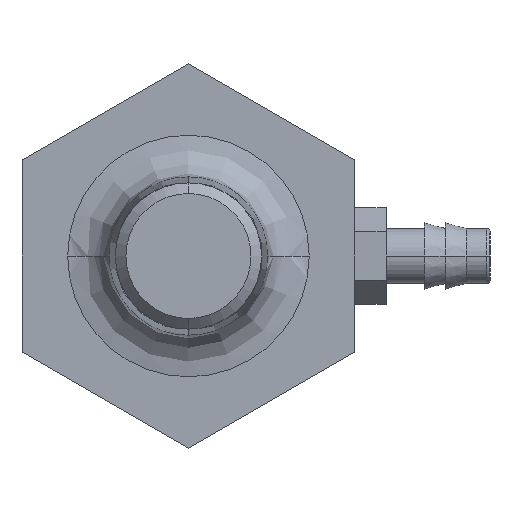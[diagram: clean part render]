
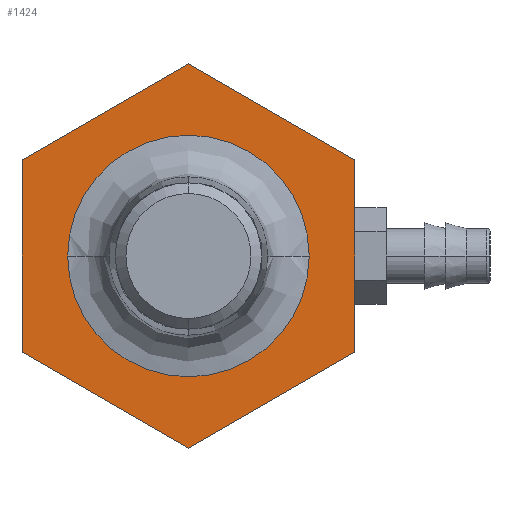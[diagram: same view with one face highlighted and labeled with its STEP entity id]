
A CAD part, left-side view. The second image highlights one B-rep face of the part: STEP entity #1424.
In plain terms, the highlighted planar face has unit normal (-1, 0, 0).
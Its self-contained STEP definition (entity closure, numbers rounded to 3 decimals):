
#1165=CARTESIAN_POINT('',(-2.75,0.363,0.));
#1166=VERTEX_POINT('',#1165);
#1176=CARTESIAN_POINT('',(-2.75,-0.363,0.));
#1177=VERTEX_POINT('',#1176);
#1178=CARTESIAN_POINT('',(-2.75,0.0,0.0));
#1179=DIRECTION('',(-1.0,0.0,0.0));
#1180=DIRECTION('',(0.0,0.0,1.0));
#1181=AXIS2_PLACEMENT_3D('',#1178,#1179,#1180);
#1182=CIRCLE('',#1181,0.363);
#1183=EDGE_CURVE('',#1166,#1177,#1182,.T.);
#1332=CARTESIAN_POINT('',(-2.75,0.0,0.363));
#1333=VERTEX_POINT('',#1332);
#1334=CARTESIAN_POINT('',(-2.75,0.0,0.0));
#1335=DIRECTION('',(-1.0,0.0,0.0));
#1336=DIRECTION('',(0.0,0.0,1.0));
#1337=AXIS2_PLACEMENT_3D('',#1334,#1335,#1336);
#1338=CIRCLE('',#1337,0.363);
#1339=EDGE_CURVE('',#1177,#1333,#1338,.T.);
#1341=CARTESIAN_POINT('',(-2.75,0.0,0.0));
#1342=DIRECTION('',(-1.0,0.0,0.0));
#1343=DIRECTION('',(0.0,0.0,1.0));
#1344=AXIS2_PLACEMENT_3D('',#1341,#1342,#1343);
#1345=CIRCLE('',#1344,0.363);
#1346=EDGE_CURVE('',#1333,#1166,#1345,.T.);
#1364=CARTESIAN_POINT('',(-2.75,0.0,0.));
#1365=DIRECTION('',(-1.0,0.0,0.0));
#1366=DIRECTION('',(0.0,0.0,1.0));
#1367=AXIS2_PLACEMENT_3D('',#1364,#1365,#1366);
#1368=PLANE('',#1367);
#1369=CARTESIAN_POINT('',(-2.75,0.5,0.289));
#1370=VERTEX_POINT('',#1369);
#1371=CARTESIAN_POINT('',(-2.75,0.0,0.577));
#1372=VERTEX_POINT('',#1371);
#1373=CARTESIAN_POINT('',(-2.75,0.5,0.289));
#1374=DIRECTION('',(0.0,-0.866,0.5));
#1375=VECTOR('',#1374,0.577);
#1376=LINE('',#1373,#1375);
#1377=EDGE_CURVE('',#1370,#1372,#1376,.T.);
#1378=ORIENTED_EDGE('',*,*,#1377,.F.);
#1379=CARTESIAN_POINT('',(-2.75,0.5,-0.289));
#1380=VERTEX_POINT('',#1379);
#1381=CARTESIAN_POINT('',(-2.75,0.5,-0.289));
#1382=DIRECTION('',(0.0,0.0,1.0));
#1383=VECTOR('',#1382,0.577);
#1384=LINE('',#1381,#1383);
#1385=EDGE_CURVE('',#1380,#1370,#1384,.T.);
#1386=ORIENTED_EDGE('',*,*,#1385,.F.);
#1387=CARTESIAN_POINT('',(-2.75,0.0,-0.577));
#1388=VERTEX_POINT('',#1387);
#1389=CARTESIAN_POINT('',(-2.75,0.0,-0.577));
#1390=DIRECTION('',(0.0,0.866,0.5));
#1391=VECTOR('',#1390,0.577);
#1392=LINE('',#1389,#1391);
#1393=EDGE_CURVE('',#1388,#1380,#1392,.T.);
#1394=ORIENTED_EDGE('',*,*,#1393,.F.);
#1395=CARTESIAN_POINT('',(-2.75,-0.5,-0.289));
#1396=VERTEX_POINT('',#1395);
#1397=CARTESIAN_POINT('',(-2.75,-0.5,-0.289));
#1398=DIRECTION('',(0.0,0.866,-0.5));
#1399=VECTOR('',#1398,0.577);
#1400=LINE('',#1397,#1399);
#1401=EDGE_CURVE('',#1396,#1388,#1400,.T.);
#1402=ORIENTED_EDGE('',*,*,#1401,.F.);
#1403=CARTESIAN_POINT('',(-2.75,-0.5,0.289));
#1404=VERTEX_POINT('',#1403);
#1405=CARTESIAN_POINT('',(-2.75,-0.5,0.289));
#1406=DIRECTION('',(0.0,0.0,-1.0));
#1407=VECTOR('',#1406,0.577);
#1408=LINE('',#1405,#1407);
#1409=EDGE_CURVE('',#1404,#1396,#1408,.T.);
#1410=ORIENTED_EDGE('',*,*,#1409,.F.);
#1411=CARTESIAN_POINT('',(-2.75,0.0,0.577));
#1412=DIRECTION('',(0.0,-0.866,-0.5));
#1413=VECTOR('',#1412,0.577);
#1414=LINE('',#1411,#1413);
#1415=EDGE_CURVE('',#1372,#1404,#1414,.T.);
#1416=ORIENTED_EDGE('',*,*,#1415,.F.);
#1417=EDGE_LOOP('',(#1378,#1386,#1394,#1402,#1410,#1416));
#1418=FACE_OUTER_BOUND('',#1417,.T.);
#1419=ORIENTED_EDGE('',*,*,#1346,.F.);
#1420=ORIENTED_EDGE('',*,*,#1339,.F.);
#1421=ORIENTED_EDGE('',*,*,#1183,.F.);
#1422=EDGE_LOOP('',(#1419,#1420,#1421));
#1423=FACE_BOUND('',#1422,.T.);
#1424=ADVANCED_FACE('',(#1418,#1423),#1368,.T.);
